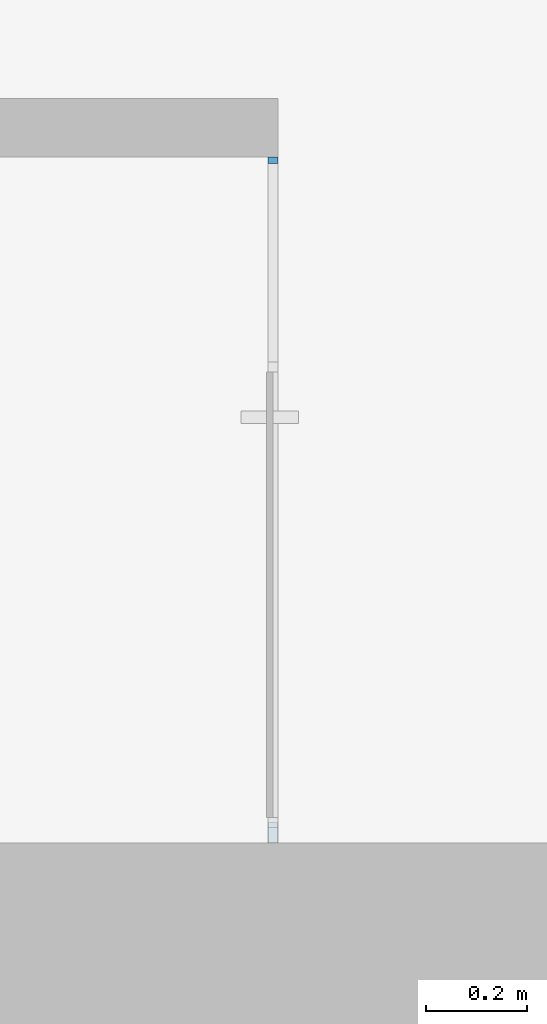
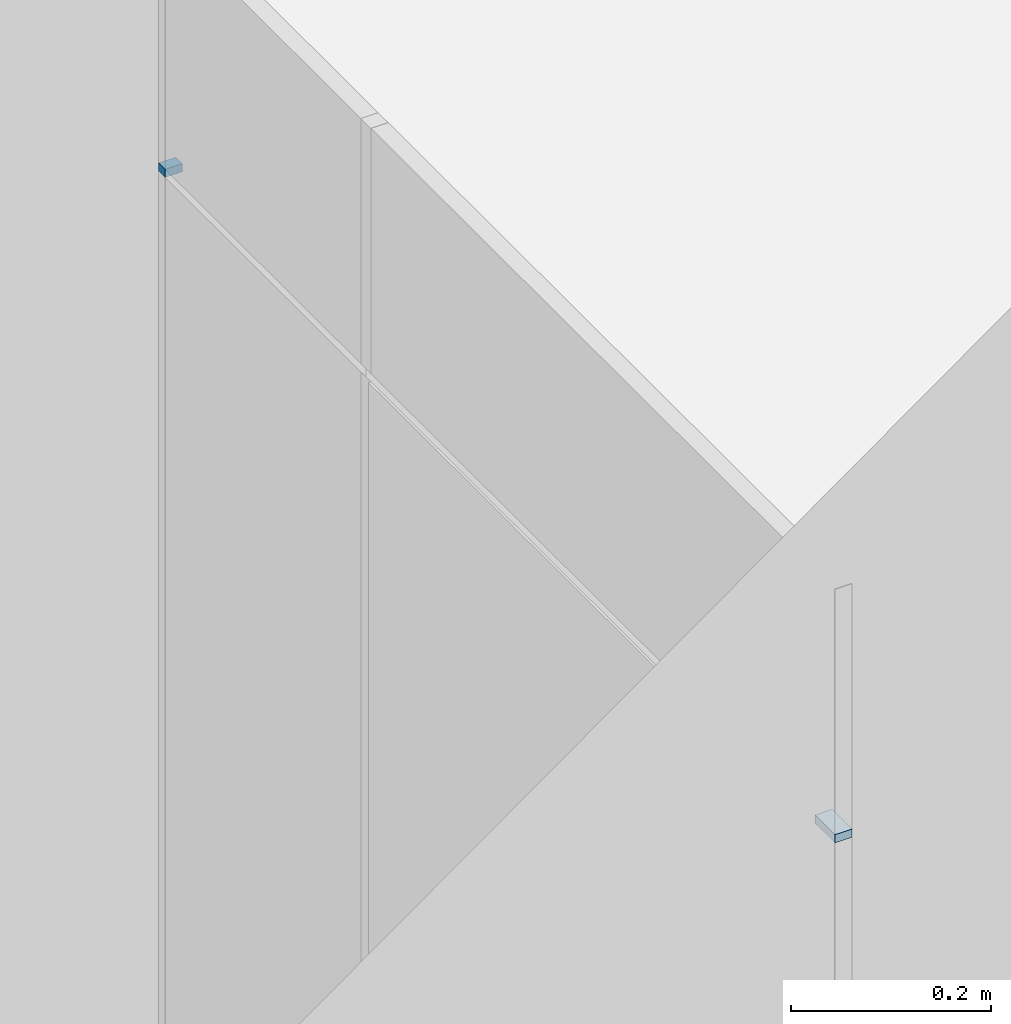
# One storey, part 45 of 73: 2 plates, 1 element without a shape of its own.
"""IFC2X3 building model written with IfcOpenShell, lengths in millimetres."""

from ifc_helpers import new_model, entity, si_unit, converted_unit, derived_unit, direction, frame, origin, origin_2d_with_axis, place, context, subcontext, project, spatial, rectangle, extrude, source, transform, mapped, material, layer, layer_set, layer_usage, type_object, type_shapes, element, aggregate, save


model = new_model("IFC2X3")

# Units and contexts
model_context = context("Model", 3, precision=0.01, world=origin(), true_north=direction((6.12303176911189e-17, 1.0)))
body_context = subcontext(model_context, "Body", "Model", "MODEL_VIEW")
ifc_project = project(units=[si_unit("LENGTHUNIT", "METRE", prefix="MILLI"), si_unit("AREAUNIT", "SQUARE_METRE"), si_unit("VOLUMEUNIT", "CUBIC_METRE"), converted_unit("PLANEANGLEUNIT", "DEGREE", entity("IfcRatioMeasure", 0.0174532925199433), si_unit("PLANEANGLEUNIT", "RADIAN"), dimensions=[0, 0, 0, 0, 0, 0, 0]), si_unit("MASSUNIT", "GRAM", prefix="KILO"), derived_unit("MASSDENSITYUNIT", [(si_unit("MASSUNIT", "GRAM", prefix="KILO"), 1), (si_unit("LENGTHUNIT", "METRE"), -3)]), si_unit("TIMEUNIT", "SECOND"), si_unit("FREQUENCYUNIT", "HERTZ"), si_unit("THERMODYNAMICTEMPERATUREUNIT", "DEGREE_CELSIUS"), derived_unit("THERMALTRANSMITTANCEUNIT", [(si_unit("MASSUNIT", "GRAM", prefix="KILO"), 1), (si_unit("THERMODYNAMICTEMPERATUREUNIT", "KELVIN"), -1), (si_unit("TIMEUNIT", "SECOND"), -3)]), derived_unit("VOLUMETRICFLOWRATEUNIT", [(si_unit("LENGTHUNIT", "METRE"), 3), (si_unit("TIMEUNIT", "SECOND"), -1)]), si_unit("ELECTRICCURRENTUNIT", "AMPERE"), si_unit("ELECTRICVOLTAGEUNIT", "VOLT"), si_unit("POWERUNIT", "WATT"), si_unit("FORCEUNIT", "NEWTON", prefix="KILO"), si_unit("ILLUMINANCEUNIT", "LUX"), si_unit("LUMINOUSFLUXUNIT", "LUMEN"), si_unit("LUMINOUSINTENSITYUNIT", "CANDELA"), derived_unit("USERDEFINED", [(si_unit("MASSUNIT", "GRAM", prefix="KILO"), -1), (si_unit("LENGTHUNIT", "METRE"), -2), (si_unit("TIMEUNIT", "SECOND"), 3), (si_unit("LUMINOUSFLUXUNIT", "LUMEN"), 1)]), derived_unit("LINEARVELOCITYUNIT", [(si_unit("LENGTHUNIT", "METRE"), 1), (si_unit("TIMEUNIT", "SECOND"), -1)]), si_unit("PRESSUREUNIT", "PASCAL"), derived_unit("USERDEFINED", [(si_unit("LENGTHUNIT", "METRE"), -2), (si_unit("MASSUNIT", "GRAM", prefix="KILO"), 1), (si_unit("TIMEUNIT", "SECOND"), -2)])], contexts=[model_context])

# Site, building, storey
site_placement = place(None, frame((-151.875543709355, 2715.0, 0.0)))
site = spatial("IfcSite", under=ifc_project, at=site_placement, Name="Surface", CompositionType="ELEMENT")
building_placement = place(site_placement, origin())
building = spatial("IfcBuilding", under=site, at=building_placement, CompositionType="ELEMENT")
storey_placement = place(building_placement, frame((0.0, 0.0, 6730.43000000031)))
storey = spatial("IfcBuildingStorey", under=building, at=storey_placement, Name="3 korrus", CompositionType="ELEMENT", Elevation=6730.43000000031)

# Curtain wall, plates
curtain_wall_type = type_object("IfcCurtainWallType", Name="Curtain Wall:Klaassein KLS-10", PredefinedType="NOTDEFINED")
curtain_wall_placement = place(storey_placement, frame((0.0, 0.0, -6730.43000000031)))
curtain_wall = element("IfcCurtainWall", 1, at=curtain_wall_placement, inside=storey, type_object=curtain_wall_type, Name="Curtain Wall:Klaassein KLS-10", ObjectType="Curtain Wall:Klaassein KLS-10")
ifc_material = material(Name="<Unnamed>")
ifc_layer = layer(ifc_material, 20.0)
ifc_layer_set = layer_set([ifc_layer], Name="Curtain Wall:Klaassein KLS-01")
ifc_layer_usage_1 = layer_usage(ifc_layer_set, "AXIS3", "POSITIVE", 0.0)
plate_type_1 = type_object("IfcPlateType", Name="Glazed", PredefinedType="CURTAIN_PANEL", material=ifc_layer_set)
shared_shape_1 = source(origin(), body_context, "Body", "SweptSolid", [
    extrude(rectangle(XDim=20.0, YDim=13.0094386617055, at=origin_2d_with_axis()), frame((0.0, 0.0, 0.0), z_axis=(0.0, 0.0, 1.0), x_axis=(0.0, 1.0, 0.0)), (0.0, 0.0, 1.0), 9.99999999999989),
])
type_shapes(plate_type_1, [shared_shape_1])
plate_1_placement = place(curtain_wall_placement, frame((10572.8493480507, 7908.55673879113, 8820.43000000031), z_axis=(0.0, 0.0, 1.0), x_axis=(0.0, -1.0, 0.0)))
plate_1 = element("IfcPlate", 2, at=plate_1_placement, type_object=plate_type_1, material=ifc_layer_usage_1, Name="System Panel:Glazed", ObjectType="Glazed", context=body_context, shape_type="MappedRepresentation", body=[
    mapped(shared_shape_1, transform((0.0, 0.0, 0.0), scale=1.0)),
])
ifc_layer_usage_2 = layer_usage(ifc_layer_set, "AXIS3", "POSITIVE", 0.0)
plate_type_2 = type_object("IfcPlateType", Name="Glazed", PredefinedType="CURTAIN_PANEL", material=ifc_layer_set)
shared_shape_2 = source(origin(), body_context, "Body", "SweptSolid", [
    extrude(rectangle(XDim=20.0, YDim=39.9999999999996, at=origin_2d_with_axis()), frame((0.0, 0.0, 0.0), z_axis=(0.0, 0.0, 1.0), x_axis=(0.0, 1.0, 0.0)), (0.0, 0.0, 1.0), 9.99999999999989),
])
type_shapes(plate_type_2, [shared_shape_2])
plate_2_placement = place(curtain_wall_placement, frame((10572.8493480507, 6580.0, 8820.43000000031), z_axis=(0.0, 0.0, 1.0), x_axis=(0.0, -1.0, 0.0)))
plate_2 = element("IfcPlate", 3, at=plate_2_placement, type_object=plate_type_2, material=ifc_layer_usage_2, Name="System Panel:Glazed", ObjectType="Glazed", context=body_context, shape_type="MappedRepresentation", body=[
    mapped(shared_shape_2, transform((0.0, 0.0, 0.0), scale=1.0)),
])
aggregate(curtain_wall, [plate_1, plate_2])

save(model, "model.ifc")
